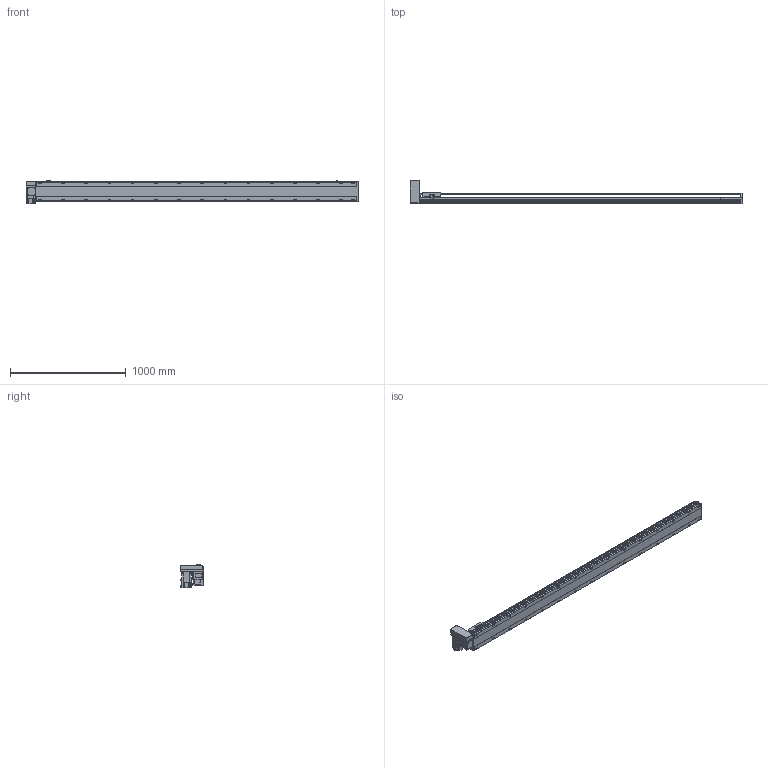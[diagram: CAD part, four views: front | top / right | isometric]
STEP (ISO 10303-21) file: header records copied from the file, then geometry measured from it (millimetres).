
FILE_DESCRIPTION(/* description */ ('STEP AP214'),/* implementation_level */ '2;1');
FILE_NAME(/* name */ 'PBS170-P40-S2500-RU-T75-C1-N(0)',/* time_stamp */ '2022-06-08T08:00:40+02:00',/* author */ ('License CC BY-ND 4.0'),/* organization */ ('CADENAS'),/* preprocessor_version */ 'ST-DEVELOPER v18.102',/* originating_system */ 'PARTsolutions',/* authorisation */ ' ');
FILE_SCHEMA (('AUTOMOTIVE_DESIGN {1 0 10303 214 3 1 1}'));
Length unit declared in the file: millimetre
Products named in the file (7): PBS170-P40-S2500-RU-T75-C1-N(0); PBS170_sensor; PBS170_plant; PBS170_sliser; T75-p1; PBS170T-RU_motors; PBS170-S2500()_body
Assembly tree (8 placements, depth 2):
  PBS170-P40-S2500-RU-T75-C1-N(0)
    PBS170_sensor  x3
    PBS170_plant
    PBS170_sliser
    T75-p1
    PBS170T-RU_motors
    PBS170-S2500()_body
Bounding box: 2863 x 206 x 205.3 mm (x, y, z)
Volume: 21677292.1 mm3; surface area: 2730093.2 mm2
Topology: 8 solids, 8 shells, 1194 faces, 3155 edges, 2056 vertices
Faces by surface type: plane 729, cylinder 395, cone 60, sphere 8, torus 2
Full cylindrical faces by diameter (mm): 3.242 x4, 4 x2, 4.4 x4, 4.5 x6, 4.917 x4, 6 x9, 6.647 x38, 7 x2, 7.5 x4, 8 x8, 8.5 x30, 10 x4, 10.5 x30, 11 x2, 30 x2, 40 x1, 70 x1
Entity records: 34324 total; most frequent: CARTESIAN_POINT 6497, DIRECTION 5790, ORIENTED_EDGE 5448, EDGE_CURVE 2724, AXIS2_PLACEMENT_3D 2047, VERTEX_POINT 1898, LINE 1696, VECTOR 1696
